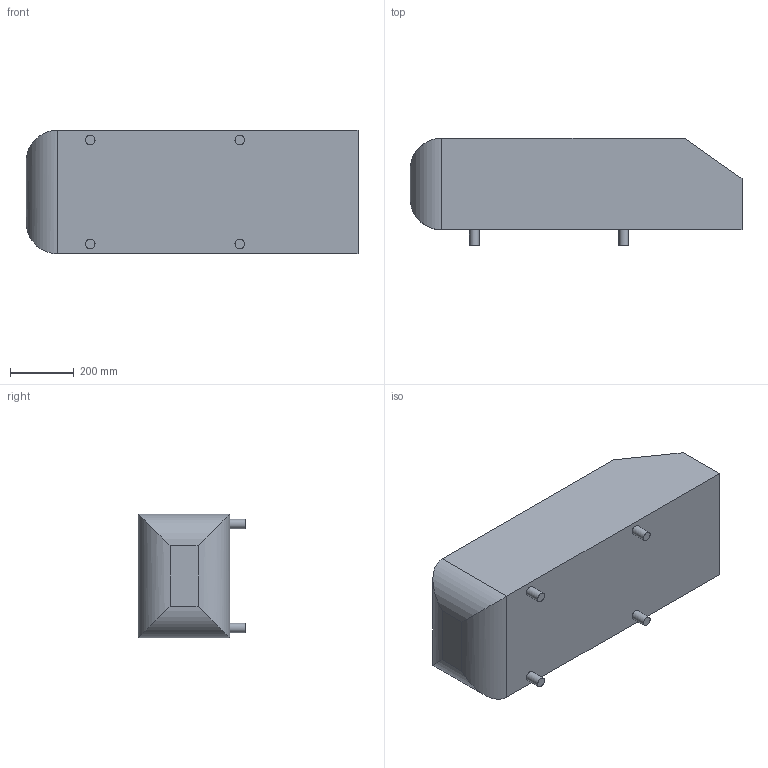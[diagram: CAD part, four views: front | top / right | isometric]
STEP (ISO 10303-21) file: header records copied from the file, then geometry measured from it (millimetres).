
FILE_DESCRIPTION(('FreeCAD Model'),'2;1');
FILE_NAME('C:/Users/SHINICHI/Desktop/Ahmed.step','2015-04-09T00:49:42',( 'Author'),(''),'Open CASCADE STEP processor 6.8','FreeCAD','Unknown' );
FILE_SCHEMA(('AUTOMOTIVE_DESIGN_CC2 { 1 2 10303 214 -1 1 5 4 }'));
Length unit declared in the file: millimetre
Products named in the file (1): Block_(Solid)
Bounding box: 1044 x 338 x 389 mm (x, y, z)
Volume: 110076728.2 mm3; surface area: 1535640.5 mm2
Topology: 1 solids, 1 shells, 19 faces, 35 edges, 22 vertices
Faces by surface type: plane 11, cylinder 8
Full cylindrical faces by diameter (mm): 30 x4
Entity records: 1025 total; most frequent: CARTESIAN_POINT 267, DIRECTION 141, LINE 77, VECTOR 77, ORIENTED_EDGE 70, PCURVE 70, DEFINITIONAL_REPRESENTATION 70, EDGE_CURVE 35
